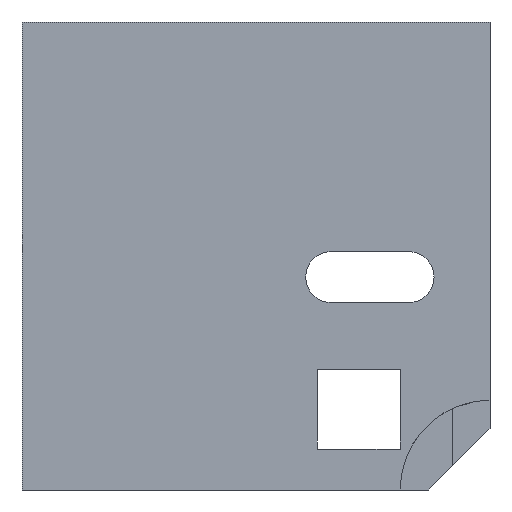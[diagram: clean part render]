
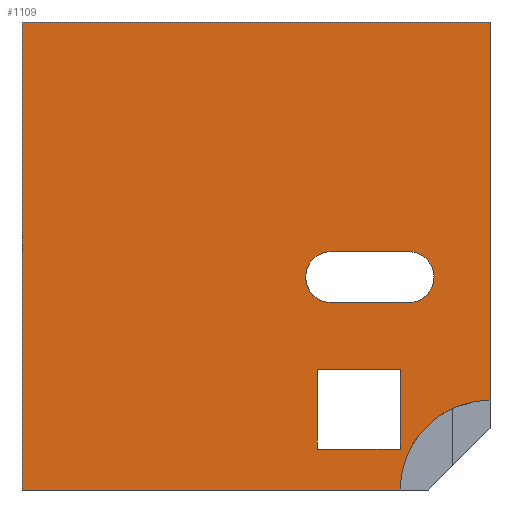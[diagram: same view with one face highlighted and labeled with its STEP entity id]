
A CAD part, left-side view. The second image highlights one B-rep face of the part: STEP entity #1109.
In plain terms, the highlighted planar face has unit normal (-1, 0, 0).
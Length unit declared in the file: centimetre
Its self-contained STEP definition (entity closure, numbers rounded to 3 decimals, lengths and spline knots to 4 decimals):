
#9 = EDGE_LOOP ( 'NONE', ( #320, #20, #1191, #1352 ) ) ;
#20 = ORIENTED_EDGE ( 'NONE', *, *, #641, .F. ) ;
#33 = CIRCLE ( 'NONE', #832, 54.4928 ) ;
#38 = CARTESIAN_POINT ( 'NONE',  ( 0., 368.7118, 87.4099 ) ) ;
#47 = CARTESIAN_POINT ( 'NONE',  ( 0., 0., 0. ) ) ;
#57 = EDGE_LOOP ( 'NONE', ( #217, #477, #1116, #1200, #812 ) ) ;
#68 = CIRCLE ( 'NONE', #140, 192.0249 ) ;
#70 = FACE_OUTER_BOUND ( 'NONE', #57, .T. ) ;
#79 = CIRCLE ( 'NONE', #192, 54.4928 ) ;
#85 = DIRECTION ( 'NONE',  ( 0., 1., 0. ) ) ;
#100 = DIRECTION ( 'NONE',  ( -1., 0., 0. ) ) ;
#101 = LINE ( 'NONE', #989, #755 ) ;
#138 = ORIENTED_EDGE ( 'NONE', *, *, #1159, .F. ) ;
#140 = AXIS2_PLACEMENT_3D ( 'NONE', #47, #905, #268 ) ;
#155 = CARTESIAN_POINT ( 'NONE',  ( 0., 173.9947, 509.3352 ) ) ;
#172 = EDGE_CURVE ( 'NONE', #685, #794, #181, .T. ) ;
#181 = LINE ( 'NONE', #966, #701 ) ;
#192 = AXIS2_PLACEMENT_3D ( 'NONE', #543, #673, #991 ) ;
#202 = PLANE ( 'NONE',  #1393 ) ;
#205 = VECTOR ( 'NONE', #219, 100. ) ;
#217 = ORIENTED_EDGE ( 'NONE', *, *, #781, .T. ) ;
#219 = DIRECTION ( 'NONE',  ( 0., 0., -1. ) ) ;
#256 = VECTOR ( 'NONE', #85, 100. ) ;
#267 = VERTEX_POINT ( 'NONE', #1359 ) ;
#268 = DIRECTION ( 'NONE',  ( 0., 0., 1. ) ) ;
#294 = VECTOR ( 'NONE', #738, 100. ) ;
#295 = CARTESIAN_POINT ( 'NONE',  ( 0., 192.0249, 0. ) ) ;
#301 = LINE ( 'NONE', #545, #429 ) ;
#320 = ORIENTED_EDGE ( 'NONE', *, *, #770, .F. ) ;
#328 = VERTEX_POINT ( 'NONE', #940 ) ;
#347 = VERTEX_POINT ( 'NONE', #602 ) ;
#401 = DIRECTION ( 'NONE',  ( 0., -1., 0. ) ) ;
#419 = CARTESIAN_POINT ( 'NONE',  ( 0., 368.7118, 87.4099 ) ) ;
#429 = VECTOR ( 'NONE', #771, 100. ) ;
#467 = EDGE_CURVE ( 'NONE', #794, #267, #676, .T. ) ;
#477 = ORIENTED_EDGE ( 'NONE', *, *, #1403, .F. ) ;
#509 = CARTESIAN_POINT ( 'NONE',  ( 0., 339.2685, 509.3352 ) ) ;
#517 = EDGE_CURVE ( 'NONE', #1094, #883, #101, .T. ) ;
#531 = DIRECTION ( 'NONE',  ( 0., 0., -1. ) ) ;
#543 = CARTESIAN_POINT ( 'NONE',  ( 0., 173.9947, 454.8424 ) ) ;
#545 = CARTESIAN_POINT ( 'NONE',  ( 0., 1000., 0. ) ) ;
#576 = LINE ( 'NONE', #38, #798 ) ;
#592 = VECTOR ( 'NONE', #788, 100. ) ;
#602 = CARTESIAN_POINT ( 'NONE',  ( 0., 339.2685, 400.3495 ) ) ;
#616 = EDGE_CURVE ( 'NONE', #328, #1094, #652, .T. ) ;
#621 = CARTESIAN_POINT ( 'NONE',  ( 0., 1000., 1000. ) ) ;
#641 = EDGE_CURVE ( 'NONE', #1013, #1398, #79, .T. ) ;
#643 = LINE ( 'NONE', #674, #205 ) ;
#646 = CARTESIAN_POINT ( 'NONE',  ( 0., 339.2685, 509.3352 ) ) ;
#652 = LINE ( 'NONE', #786, #1065 ) ;
#673 = DIRECTION ( 'NONE',  ( -1., 0., 0. ) ) ;
#674 = CARTESIAN_POINT ( 'NONE',  ( 0., 1000., 1000. ) ) ;
#676 = LINE ( 'NONE', #1361, #592 ) ;
#678 = ORIENTED_EDGE ( 'NONE', *, *, #1030, .F. ) ;
#685 = VERTEX_POINT ( 'NONE', #419 ) ;
#701 = VECTOR ( 'NONE', #401, 100. ) ;
#711 = EDGE_CURVE ( 'NONE', #845, #347, #33, .T. ) ;
#730 = LINE ( 'NONE', #1397, #256 ) ;
#738 = DIRECTION ( 'NONE',  ( 0., -1., 0. ) ) ;
#755 = VECTOR ( 'NONE', #998, 100. ) ;
#763 = CARTESIAN_POINT ( 'NONE',  ( 0., 191.8164, 87.4099 ) ) ;
#770 = EDGE_CURVE ( 'NONE', #1398, #845, #1063, .T. ) ;
#771 = DIRECTION ( 'NONE',  ( 0., -1., 0. ) ) ;
#780 = EDGE_CURVE ( 'NONE', #347, #1013, #1293, .T. ) ;
#781 = EDGE_CURVE ( 'NONE', #948, #1157, #301, .T. ) ;
#786 = CARTESIAN_POINT ( 'NONE',  ( 0., 1000., 1000. ) ) ;
#788 = DIRECTION ( 'NONE',  ( 0., 0., 1. ) ) ;
#794 = VERTEX_POINT ( 'NONE', #763 ) ;
#798 = VECTOR ( 'NONE', #1023, 100. ) ;
#812 = ORIENTED_EDGE ( 'NONE', *, *, #1224, .T. ) ;
#827 = DIRECTION ( 'NONE',  ( 1., 0., 0. ) ) ;
#832 = AXIS2_PLACEMENT_3D ( 'NONE', #1176, #100, #531 ) ;
#833 = FACE_BOUND ( 'NONE', #1365, .T. ) ;
#845 = VERTEX_POINT ( 'NONE', #646 ) ;
#880 = ORIENTED_EDGE ( 'NONE', *, *, #172, .F. ) ;
#883 = VERTEX_POINT ( 'NONE', #1233 ) ;
#905 = DIRECTION ( 'NONE',  ( -1., 0., 0. ) ) ;
#940 = CARTESIAN_POINT ( 'NONE',  ( 0., 1000., 1000. ) ) ;
#948 = VERTEX_POINT ( 'NONE', #1256 ) ;
#962 = DIRECTION ( 'NONE',  ( 0., 1., 0. ) ) ;
#966 = CARTESIAN_POINT ( 'NONE',  ( 0., 191.8164, 87.4099 ) ) ;
#972 = CARTESIAN_POINT ( 'NONE',  ( 0., 0., 1000. ) ) ;
#989 = CARTESIAN_POINT ( 'NONE',  ( 0., 0., 1000. ) ) ;
#991 = DIRECTION ( 'NONE',  ( 0., 0., -1. ) ) ;
#998 = DIRECTION ( 'NONE',  ( 0., 0., -1. ) ) ;
#1013 = VERTEX_POINT ( 'NONE', #1045 ) ;
#1023 = DIRECTION ( 'NONE',  ( 0., 0., -1. ) ) ;
#1030 = EDGE_CURVE ( 'NONE', #1262, #685, #576, .T. ) ;
#1045 = CARTESIAN_POINT ( 'NONE',  ( 0., 173.9947, 400.3495 ) ) ;
#1063 = LINE ( 'NONE', #509, #1390 ) ;
#1065 = VECTOR ( 'NONE', #1215, 100. ) ;
#1094 = VERTEX_POINT ( 'NONE', #972 ) ;
#1109 = ADVANCED_FACE ( 'NONE', ( #833, #1406, #70 ), #202, .F. ) ;
#1116 = ORIENTED_EDGE ( 'NONE', *, *, #517, .F. ) ;
#1157 = VERTEX_POINT ( 'NONE', #295 ) ;
#1159 = EDGE_CURVE ( 'NONE', #267, #1262, #730, .T. ) ;
#1167 = ORIENTED_EDGE ( 'NONE', *, *, #467, .F. ) ;
#1176 = CARTESIAN_POINT ( 'NONE',  ( 0., 339.2685, 454.8424 ) ) ;
#1191 = ORIENTED_EDGE ( 'NONE', *, *, #780, .F. ) ;
#1200 = ORIENTED_EDGE ( 'NONE', *, *, #616, .F. ) ;
#1215 = DIRECTION ( 'NONE',  ( 0., -1., 0. ) ) ;
#1224 = EDGE_CURVE ( 'NONE', #328, #948, #643, .T. ) ;
#1233 = CARTESIAN_POINT ( 'NONE',  ( 0., 0., 192.0249 ) ) ;
#1256 = CARTESIAN_POINT ( 'NONE',  ( 0., 1000., 0. ) ) ;
#1262 = VERTEX_POINT ( 'NONE', #1328 ) ;
#1278 = DIRECTION ( 'NONE',  ( 0., 0., -1. ) ) ;
#1293 = LINE ( 'NONE', #1304, #294 ) ;
#1304 = CARTESIAN_POINT ( 'NONE',  ( 0., 173.9947, 400.3495 ) ) ;
#1328 = CARTESIAN_POINT ( 'NONE',  ( 0., 368.7118, 258.2601 ) ) ;
#1352 = ORIENTED_EDGE ( 'NONE', *, *, #711, .F. ) ;
#1359 = CARTESIAN_POINT ( 'NONE',  ( 0., 191.8164, 258.2601 ) ) ;
#1361 = CARTESIAN_POINT ( 'NONE',  ( 0., 191.8164, 87.4099 ) ) ;
#1365 = EDGE_LOOP ( 'NONE', ( #1167, #880, #678, #138 ) ) ;
#1390 = VECTOR ( 'NONE', #962, 100. ) ;
#1393 = AXIS2_PLACEMENT_3D ( 'NONE', #621, #827, #1278 ) ;
#1397 = CARTESIAN_POINT ( 'NONE',  ( 0., 191.8164, 258.2601 ) ) ;
#1398 = VERTEX_POINT ( 'NONE', #155 ) ;
#1403 = EDGE_CURVE ( 'NONE', #883, #1157, #68, .T. ) ;
#1406 = FACE_BOUND ( 'NONE', #9, .T. ) ;
